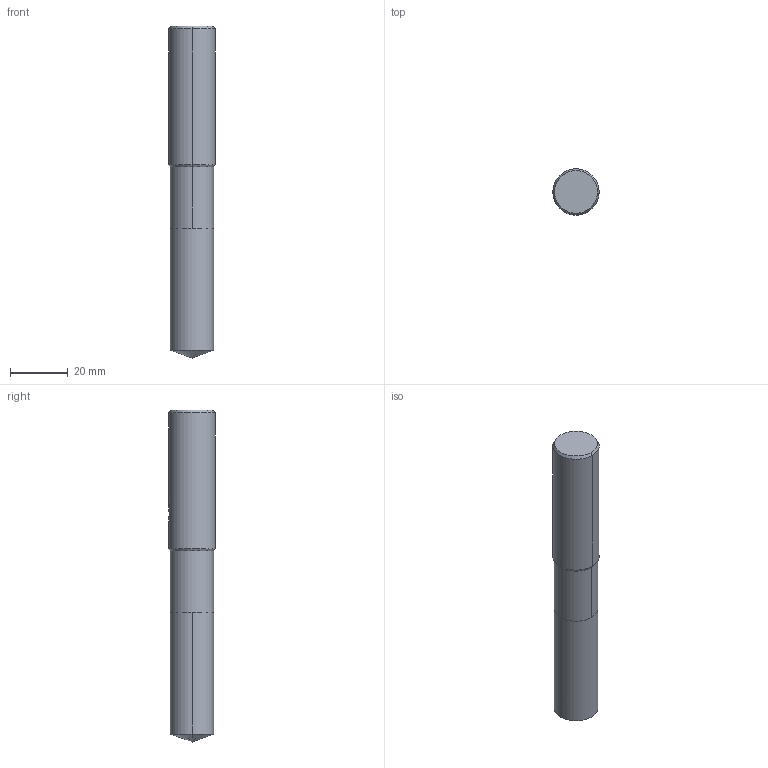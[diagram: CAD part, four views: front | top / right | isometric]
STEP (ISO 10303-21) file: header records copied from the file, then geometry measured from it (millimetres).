
FILE_DESCRIPTION(('no description'),'unknown implementation level');
FILE_NAME('solidfxPPY9OrBYnuU9aOoaLSw6HLx0c_1.STP',' ',('CIMSOURCE GmbH'),('CADClick - KiM GmbH - www.kimweb.de'),'unknown preprocess','ACIS','unknown authorization');
FILE_SCHEMA(('automotive_design'));
Length unit declared in the file: millimetre
Products named in the file (2): NOCUT; CUT
Bounding box: 16 x 16 x 115 mm (x, y, z)
Volume: 21313.7 mm3; surface area: 6198 mm2
Topology: 2 solids, 2 shells, 28 faces, 67 edges, 41 vertices
Faces by surface type: cylinder 14, plane 8, cone 6
Entity records: 1863 total; most frequent: CARTESIAN_POINT 420, DIRECTION 139, STYLED_ITEM 136, PRESENTATION_STYLE_ASSIGNMENT 136, COLOUR_RGB 136, ORIENTED_EDGE 130, EDGE_CURVE 65, CURVE_STYLE 65
